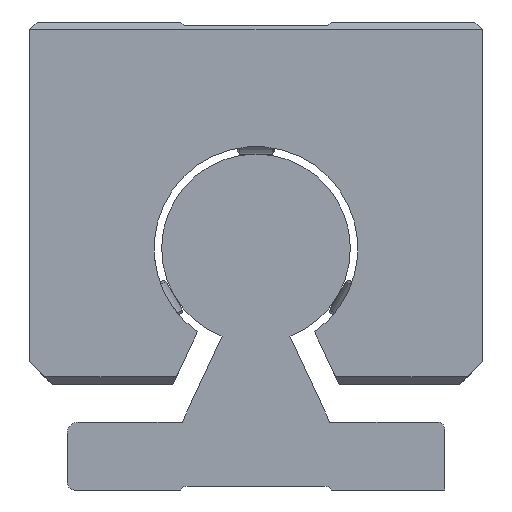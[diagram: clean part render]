
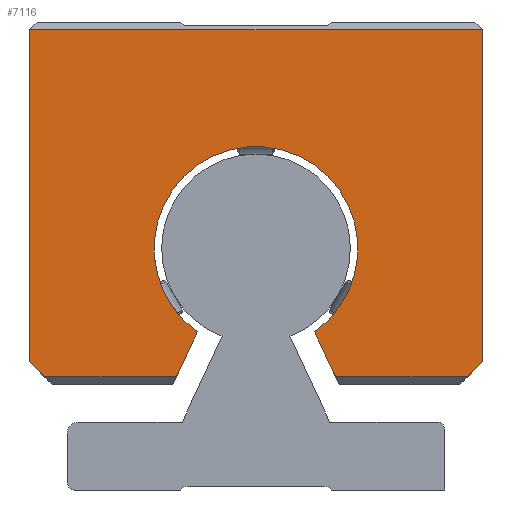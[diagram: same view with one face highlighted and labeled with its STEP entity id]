
A CAD part, left-side view. The second image highlights one B-rep face of the part: STEP entity #7116.
In plain terms, the highlighted planar face has unit normal (-1, 0, 0).
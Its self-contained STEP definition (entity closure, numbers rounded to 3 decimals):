
#5677=CARTESIAN_POINT('',(271.29,-30.,61.));
#5678=VERTEX_POINT('',#5677);
#5687=CARTESIAN_POINT('',(271.29,-30.,17.));
#5688=VERTEX_POINT('',#5687);
#5689=CARTESIAN_POINT('',(271.29,-30.,61.));
#5690=DIRECTION('',(0.0,0.0,-1.0));
#5691=VECTOR('',#5690,44.);
#5692=LINE('',#5689,#5691);
#5693=EDGE_CURVE('',#5678,#5688,#5692,.T.);
#5924=CARTESIAN_POINT('',(271.29,-7.758,20.952));
#5925=VERTEX_POINT('',#5924);
#5932=CARTESIAN_POINT('',(271.29,7.758,20.952));
#5933=VERTEX_POINT('',#5932);
#5934=CARTESIAN_POINT('',(271.29,0.,32.0));
#5935=DIRECTION('',(-1.0,0.0,0.0));
#5936=DIRECTION('',(0.0,-1.0,0.0));
#5937=AXIS2_PLACEMENT_3D('',#5934,#5935,#5936);
#5938=CIRCLE('',#5937,13.5);
#5939=EDGE_CURVE('',#5925,#5933,#5938,.T.);
#6744=CARTESIAN_POINT('',(271.29,30.,61.));
#6745=VERTEX_POINT('',#6744);
#6752=CARTESIAN_POINT('',(271.29,30.,61.));
#6753=DIRECTION('',(0.0,-1.0,0.0));
#6754=VECTOR('',#6753,60.0);
#6755=LINE('',#6752,#6754);
#6756=EDGE_CURVE('',#6745,#5678,#6755,.T.);
#6766=CARTESIAN_POINT('',(271.29,28.,15.));
#6767=VERTEX_POINT('',#6766);
#6784=CARTESIAN_POINT('',(271.29,10.534,15.));
#6785=VERTEX_POINT('',#6784);
#6792=CARTESIAN_POINT('',(271.29,10.534,15.));
#6793=DIRECTION('',(0.0,1.0,0.0));
#6794=VECTOR('',#6793,17.466);
#6795=LINE('',#6792,#6794);
#6796=EDGE_CURVE('',#6785,#6767,#6795,.T.);
#6855=CARTESIAN_POINT('',(271.29,30.,17.));
#6856=VERTEX_POINT('',#6855);
#6857=CARTESIAN_POINT('',(271.29,28.,15.));
#6858=DIRECTION('',(0.0,0.707,0.707));
#6859=VECTOR('',#6858,2.828);
#6860=LINE('',#6857,#6859);
#6861=EDGE_CURVE('',#6767,#6856,#6860,.T.);
#7042=CARTESIAN_POINT('',(271.29,-28.,15.));
#7043=VERTEX_POINT('',#7042);
#7044=CARTESIAN_POINT('',(271.29,-30.,17.));
#7045=DIRECTION('',(0.0,0.707,-0.707));
#7046=VECTOR('',#7045,2.828);
#7047=LINE('',#7044,#7046);
#7048=EDGE_CURVE('',#5688,#7043,#7047,.T.);
#7066=CARTESIAN_POINT('',(271.29,-10.534,15.));
#7067=VERTEX_POINT('',#7066);
#7068=CARTESIAN_POINT('',(271.29,-28.,15.));
#7069=DIRECTION('',(0.0,1.0,0.0));
#7070=VECTOR('',#7069,17.466);
#7071=LINE('',#7068,#7070);
#7072=EDGE_CURVE('',#7043,#7067,#7071,.T.);
#7084=CARTESIAN_POINT('',(271.29,-20.,61.75));
#7085=DIRECTION('',(1.0,0.0,0.0));
#7086=DIRECTION('',(0.0,0.0,-1.0));
#7087=AXIS2_PLACEMENT_3D('',#7084,#7085,#7086);
#7088=PLANE('',#7087);
#7089=ORIENTED_EDGE('',*,*,#6796,.F.);
#7090=CARTESIAN_POINT('',(271.29,7.758,20.952));
#7091=DIRECTION('',(0.0,0.423,-0.906));
#7092=VECTOR('',#7091,6.567);
#7093=LINE('',#7090,#7092);
#7094=EDGE_CURVE('',#5933,#6785,#7093,.T.);
#7095=ORIENTED_EDGE('',*,*,#7094,.F.);
#7096=ORIENTED_EDGE('',*,*,#5939,.F.);
#7097=CARTESIAN_POINT('',(271.29,-10.534,15.));
#7098=DIRECTION('',(0.0,0.423,0.906));
#7099=VECTOR('',#7098,6.567);
#7100=LINE('',#7097,#7099);
#7101=EDGE_CURVE('',#7067,#5925,#7100,.T.);
#7102=ORIENTED_EDGE('',*,*,#7101,.F.);
#7103=ORIENTED_EDGE('',*,*,#7072,.F.);
#7104=ORIENTED_EDGE('',*,*,#7048,.F.);
#7105=ORIENTED_EDGE('',*,*,#5693,.F.);
#7106=ORIENTED_EDGE('',*,*,#6756,.F.);
#7107=CARTESIAN_POINT('',(271.29,30.,17.));
#7108=DIRECTION('',(0.0,0.0,1.0));
#7109=VECTOR('',#7108,44.);
#7110=LINE('',#7107,#7109);
#7111=EDGE_CURVE('',#6856,#6745,#7110,.T.);
#7112=ORIENTED_EDGE('',*,*,#7111,.F.);
#7113=ORIENTED_EDGE('',*,*,#6861,.F.);
#7114=EDGE_LOOP('',(#7089,#7095,#7096,#7102,#7103,#7104,#7105,#7106,#7112,#7113));
#7115=FACE_OUTER_BOUND('',#7114,.T.);
#7116=ADVANCED_FACE('',(#7115),#7088,.F.);
